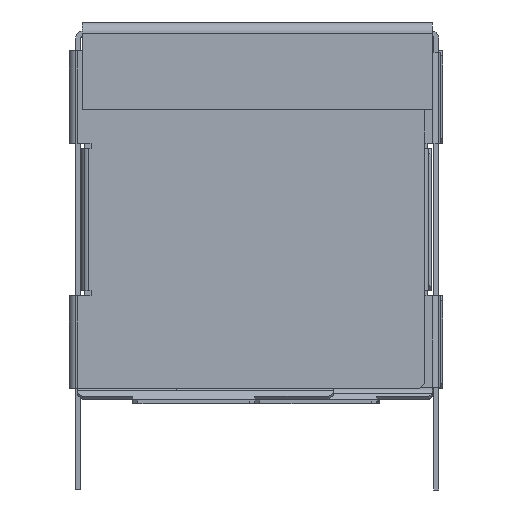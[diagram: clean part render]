
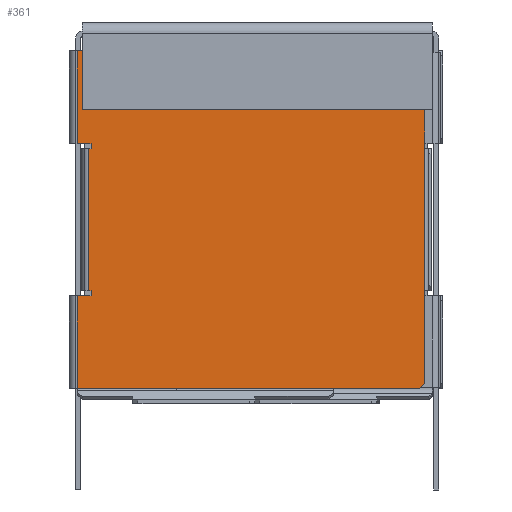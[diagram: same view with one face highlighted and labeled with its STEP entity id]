
A CAD part, left-side view. The second image highlights one B-rep face of the part: STEP entity #361.
In plain terms, the highlighted planar face has unit normal (-1, 0, 0).
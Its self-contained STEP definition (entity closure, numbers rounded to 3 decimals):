
#361=ADVANCED_FACE('NONE',(#913),#914,.T.);
#913=FACE_OUTER_BOUND('',#1532,.T.);
#914=PLANE('',#1533);
#1532=EDGE_LOOP('',(#3697,#3698,#3699,#3700,#3701,#3702,#3703,#3704,#3705,#3706,#3707,#3708,#3709,#3710,#3711));
#1533=AXIS2_PLACEMENT_3D('',#3712,#3713,#3714);
#3697=ORIENTED_EDGE('',*,*,#4942,.T.);
#3698=ORIENTED_EDGE('',*,*,#4943,.T.);
#3699=ORIENTED_EDGE('',*,*,#4944,.T.);
#3700=ORIENTED_EDGE('',*,*,#4945,.T.);
#3701=ORIENTED_EDGE('',*,*,#4946,.T.);
#3702=ORIENTED_EDGE('',*,*,#4947,.T.);
#3703=ORIENTED_EDGE('',*,*,#4948,.T.);
#3704=ORIENTED_EDGE('',*,*,#4949,.T.);
#3705=ORIENTED_EDGE('',*,*,#4950,.T.);
#3706=ORIENTED_EDGE('',*,*,#4951,.T.);
#3707=ORIENTED_EDGE('',*,*,#4952,.T.);
#3708=ORIENTED_EDGE('',*,*,#4953,.T.);
#3709=ORIENTED_EDGE('',*,*,#4954,.T.);
#3710=ORIENTED_EDGE('',*,*,#4955,.T.);
#3711=ORIENTED_EDGE('',*,*,#4956,.T.);
#3712=CARTESIAN_POINT('',(-158.468,-58.8,327.));
#3713=DIRECTION('',(-1.0,0.,0.));
#3714=DIRECTION('',(0.,1.0,0.));
#4942=EDGE_CURVE('NONE',#6214,#6215,#6216,.T.);
#4943=EDGE_CURVE('NONE',#6215,#6217,#6218,.T.);
#4944=EDGE_CURVE('NONE',#6217,#6219,#6220,.T.);
#4945=EDGE_CURVE('NONE',#6219,#6221,#6222,.T.);
#4946=EDGE_CURVE('NONE',#6221,#6223,#6224,.T.);
#4947=EDGE_CURVE('NONE',#6223,#6225,#6226,.T.);
#4948=EDGE_CURVE('NONE',#6225,#6227,#6228,.T.);
#4949=EDGE_CURVE('NONE',#6227,#6229,#6230,.T.);
#4950=EDGE_CURVE('NONE',#6229,#6231,#6232,.T.);
#4951=EDGE_CURVE('NONE',#6231,#6233,#6234,.T.);
#4952=EDGE_CURVE('NONE',#6233,#6235,#6236,.T.);
#4953=EDGE_CURVE('NONE',#6235,#6237,#6238,.T.);
#4954=EDGE_CURVE('NONE',#6237,#6239,#6240,.T.);
#4955=EDGE_CURVE('NONE',#6239,#6241,#6242,.T.);
#4956=EDGE_CURVE('NONE',#6241,#6214,#6243,.T.);
#6214=VERTEX_POINT('NONE',#8164);
#6215=VERTEX_POINT('NONE',#8165);
#6216=LINE('',#8166,#8167);
#6217=VERTEX_POINT('NONE',#8168);
#6218=LINE('',#8169,#8170);
#6219=VERTEX_POINT('NONE',#8171);
#6220=LINE('',#8172,#8173);
#6221=VERTEX_POINT('NONE',#8174);
#6222=LINE('',#8175,#8176);
#6223=VERTEX_POINT('NONE',#8177);
#6224=LINE('',#8178,#8179);
#6225=VERTEX_POINT('NONE',#8180);
#6226=LINE('',#8181,#8182);
#6227=VERTEX_POINT('NONE',#8183);
#6228=LINE('',#8184,#8185);
#6229=VERTEX_POINT('NONE',#8186);
#6230=LINE('',#8187,#8188);
#6231=VERTEX_POINT('NONE',#8189);
#6232=LINE('',#8190,#8191);
#6233=VERTEX_POINT('NONE',#8192);
#6234=LINE('',#8193,#8194);
#6235=VERTEX_POINT('NONE',#8195);
#6236=LINE('',#8196,#8197);
#6237=VERTEX_POINT('NONE',#8198);
#6238=LINE('',#8199,#8200);
#6239=VERTEX_POINT('NONE',#8201);
#6240=LINE('',#8202,#8203);
#6241=VERTEX_POINT('NONE',#8204);
#6242=LINE('',#8205,#8206);
#6243=LINE('',#8207,#8208);
#8164=CARTESIAN_POINT('',(-158.468,-122.8,260.5));
#8165=CARTESIAN_POINT('',(-158.468,-124.8,262.5));
#8166=CARTESIAN_POINT('',(-158.468,-122.8,260.5));
#8167=VECTOR('',#9494,1000.0);
#8168=CARTESIAN_POINT('',(-158.468,-124.8,393.5));
#8169=CARTESIAN_POINT('',(-158.468,-124.8,327.));
#8170=VECTOR('',#9495,1000.0);
#8171=CARTESIAN_POINT('',(-158.468,6.7,393.5));
#8172=CARTESIAN_POINT('',(-158.468,-58.8,393.5));
#8173=VECTOR('',#9496,1000.0);
#8174=CARTESIAN_POINT('',(-158.468,12.2,393.5));
#8175=CARTESIAN_POINT('',(-158.468,-58.8,393.5));
#8176=VECTOR('',#9497,1000.0);
#8177=CARTESIAN_POINT('',(-158.468,12.2,357.));
#8178=CARTESIAN_POINT('',(-158.468,12.2,327.));
#8179=VECTOR('',#9498,1000.0);
#8180=CARTESIAN_POINT('',(-158.468,6.7,357.));
#8181=CARTESIAN_POINT('',(-158.468,-58.8,357.));
#8182=VECTOR('',#9499,1000.0);
#8183=CARTESIAN_POINT('',(-158.468,6.7,355.));
#8184=CARTESIAN_POINT('',(-158.468,6.7,327.));
#8185=VECTOR('',#9500,1000.0);
#8186=CARTESIAN_POINT('',(-158.468,7.7,355.));
#8187=CARTESIAN_POINT('',(-158.468,-58.8,355.));
#8188=VECTOR('',#9501,1000.0);
#8189=CARTESIAN_POINT('',(-158.468,7.7,299.));
#8190=CARTESIAN_POINT('',(-158.468,7.7,327.));
#8191=VECTOR('',#9502,1000.0);
#8192=CARTESIAN_POINT('',(-158.468,6.7,299.));
#8193=CARTESIAN_POINT('',(-158.468,-58.8,299.));
#8194=VECTOR('',#9503,1000.0);
#8195=CARTESIAN_POINT('',(-158.468,6.7,297.));
#8196=CARTESIAN_POINT('',(-158.468,6.7,327.));
#8197=VECTOR('',#9504,1000.0);
#8198=CARTESIAN_POINT('',(-158.468,12.2,297.));
#8199=CARTESIAN_POINT('',(-158.468,-58.8,297.));
#8200=VECTOR('',#9505,1000.0);
#8201=CARTESIAN_POINT('',(-158.468,12.2,260.5));
#8202=CARTESIAN_POINT('',(-158.468,12.2,327.));
#8203=VECTOR('',#9506,1000.0);
#8204=CARTESIAN_POINT('',(-158.468,-88.8,260.5));
#8205=CARTESIAN_POINT('',(-158.468,-58.8,260.5));
#8206=VECTOR('',#9507,1000.0);
#8207=CARTESIAN_POINT('',(-158.468,-58.8,260.5));
#8208=VECTOR('',#9508,1000.0);
#9494=DIRECTION('',(0.,-0.707,0.707));
#9495=DIRECTION('',(0.,0.,1.0));
#9496=DIRECTION('',(0.,1.0,0.));
#9497=DIRECTION('',(0.,1.0,0.));
#9498=DIRECTION('',(0.,0.,-1.0));
#9499=DIRECTION('',(0.,-1.0,0.));
#9500=DIRECTION('',(0.,0.,-1.0));
#9501=DIRECTION('',(0.,1.0,0.));
#9502=DIRECTION('',(0.,0.,-1.0));
#9503=DIRECTION('',(0.,-1.0,0.));
#9504=DIRECTION('',(0.,0.,-1.0));
#9505=DIRECTION('',(0.,1.0,0.));
#9506=DIRECTION('',(0.,0.,-1.0));
#9507=DIRECTION('',(0.,-1.0,0.));
#9508=DIRECTION('',(0.,-1.0,0.));
